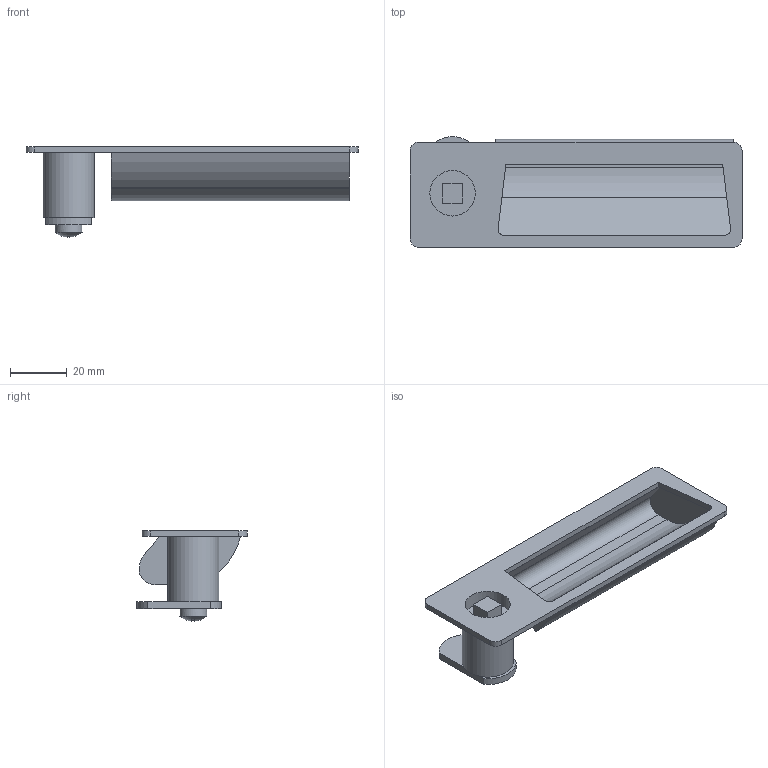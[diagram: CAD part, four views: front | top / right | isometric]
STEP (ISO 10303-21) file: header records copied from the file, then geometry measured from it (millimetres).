
FILE_DESCRIPTION( ( 'STEP AP203' ), '1' );
FILE_NAME( 'C:/Temp/Ganter_Step_05_03_2020/data/3_3/gn731_5/gn731_5_1/Latche with gripping tray GN 731.5-VK-0-20-1-SG (0-23).stp', '2020-03-12T11:49:18', ( 'License CC BY-ND 4.0' ), ( 'CADENAS' ), ' ', 'PARTsolutions', ' ' );
FILE_SCHEMA( ( 'CONFIG_CONTROL_DESIGN' ) );
Length unit declared in the file: millimetre
Products named in the file (3): Latche with gripping tray GN 731.5-VK-0-20-1-SG (0-23); _Latche with gripping tray GN 731.5-VK-0-20-1-SG (0)_1; _Latche with gripping tray GN 731.5-VK-0-20-1-SG (0-23)_2
Assembly tree (2 placements, depth 2):
  Latche with gripping tray GN 731.5-VK-0-20-1-SG (0-23)
    _Latche with gripping tray GN 731.5-VK-0-20-1-SG (0)_1
    _Latche with gripping tray GN 731.5-VK-0-20-1-SG (0-23)_2
Bounding box: 117 x 38.96 x 31.88 mm (x, y, z)
Volume: 23363.7 mm3; surface area: 19547.1 mm2
Topology: 2 solids, 2 shells, 85 faces, 215 edges, 140 vertices
Faces by surface type: plane 64, cylinder 20, sphere 1
Full cylindrical faces by diameter (mm): 9.5 x1, 16 x1, 18 x1
Entity records: 2615 total; most frequent: DIRECTION 445, CARTESIAN_POINT 433, ORIENTED_EDGE 416, EDGE_CURVE 208, AXIS2_PLACEMENT_3D 149, LINE 147, VECTOR 147, VERTEX_POINT 137
